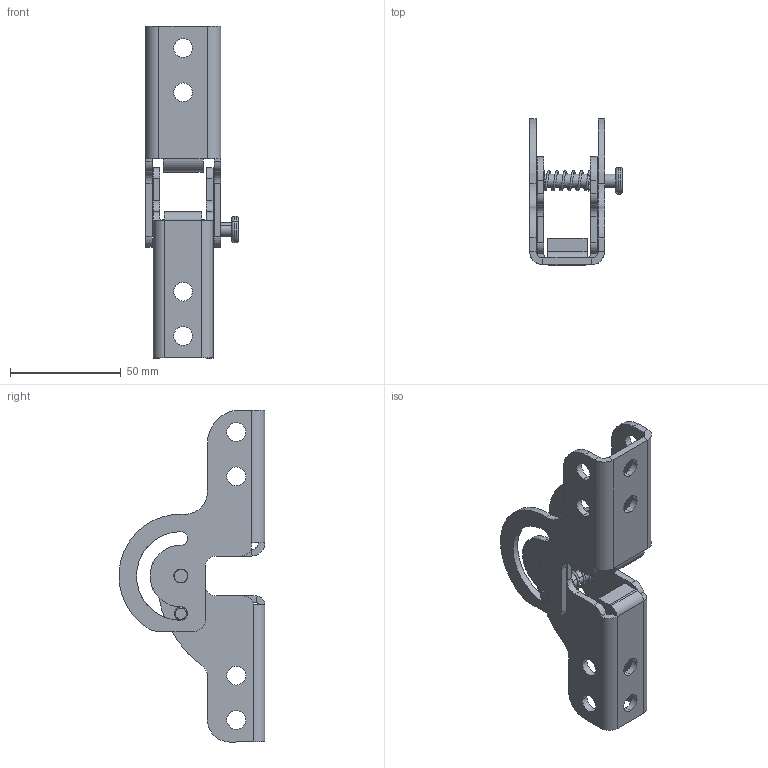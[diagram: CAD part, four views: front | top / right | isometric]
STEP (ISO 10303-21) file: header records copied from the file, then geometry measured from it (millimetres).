
FILE_DESCRIPTION (( 'STEP AP214' ), '1' );
FILE_NAME ('3.ST310.001 - 180.STEP', '2026-02-06T10:09:04', ( '' ), ( '' ), 'SwSTEP 2.0', 'SolidWorks 2021', '' );
FILE_SCHEMA (( 'AUTOMOTIVE_DESIGN' ));
Length unit declared in the file: millimetre
Products named in the file (7): P.050994_00-01; DIN 6799_4-ST-OC; P.051018_00-01; 3.ST310.001 - 180; P.051017_00-01; P.052269_00-01; P.051001_00-01
Assembly tree (7 placements, depth 2):
  3.ST310.001 - 180
    P.051017_00-01
    P.051018_00-01
    P.051001_00-01  x2
    P.050994_00-01
    P.052269_00-01
    DIN 6799_4-ST-OC
Bounding box: 42 x 65.95 x 150 mm (x, y, z)
Volume: 42301.1 mm3; surface area: 34132.6 mm2
Topology: 9 solids, 9 shells, 439 faces, 1191 edges, 774 vertices
Faces by surface type: plane 284, cylinder 135, bspline 10, cone 6, torus 4
Entity records: 14265 total; most frequent: CARTESIAN_POINT 5376, DIRECTION 1873, ORIENTED_EDGE 1762, EDGE_CURVE 881, AXIS2_PLACEMENT_3D 673, VERTEX_POINT 568, VECTOR 527, LINE 527
